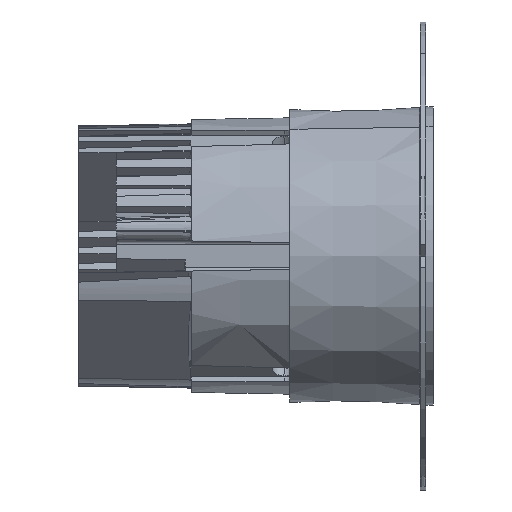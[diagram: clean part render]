
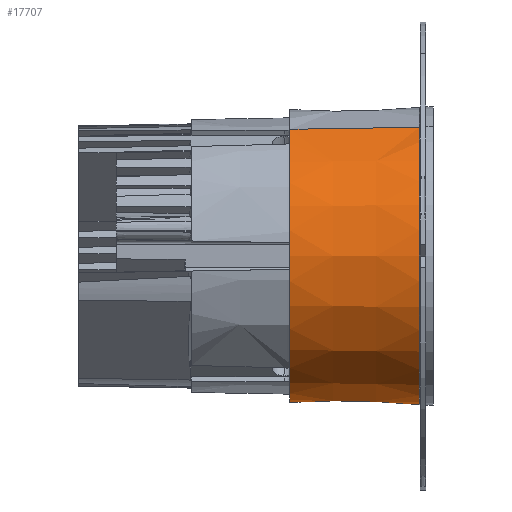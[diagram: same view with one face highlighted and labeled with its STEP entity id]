
A CAD part, left-side view. The second image highlights one B-rep face of the part: STEP entity #17707.
In plain terms, the highlighted conical face has half-angle 1 degrees and reference radius 38.776 mm.
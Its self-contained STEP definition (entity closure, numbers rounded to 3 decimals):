
#1489 = ORIENTED_EDGE ( 'NONE', *, *, #15432, .T. ) ;
#1741 = ORIENTED_EDGE ( 'NONE', *, *, #14887, .F. ) ;
#2378 = DIRECTION ( 'NONE',  ( 0., -1., 0.017 ) ) ;
#3381 = EDGE_CURVE ( 'NONE', #30016, #27765, #39309, .T. ) ;
#3754 = CARTESIAN_POINT ( 'NONE',  ( 0., 38., -38.776 ) ) ;
#5378 = CARTESIAN_POINT ( 'NONE',  ( 0., 3.697, -39.374 ) ) ;
#7106 = VECTOR ( 'NONE', #2378, 1000. ) ;
#7344 = CARTESIAN_POINT ( 'NONE',  ( 0., 3.697, 39.374 ) ) ;
#7838 = DIRECTION ( 'NONE',  ( 0., 1., 0. ) ) ;
#9656 = VECTOR ( 'NONE', #40045, 1000. ) ;
#10482 = CARTESIAN_POINT ( 'NONE',  ( 0., 38., 0. ) ) ;
#11504 = CARTESIAN_POINT ( 'NONE',  ( 0., 38., 38.776 ) ) ;
#11528 = AXIS2_PLACEMENT_3D ( 'NONE', #15223, #7838, #23029 ) ;
#11624 = LINE ( 'NONE', #27024, #9656 ) ;
#12596 = VERTEX_POINT ( 'NONE', #5378 ) ;
#14887 = EDGE_CURVE ( 'NONE', #15254, #30016, #28989, .T. ) ;
#15223 = CARTESIAN_POINT ( 'NONE',  ( 0., 38., 0. ) ) ;
#15254 = VERTEX_POINT ( 'NONE', #3754 ) ;
#15432 = EDGE_CURVE ( 'NONE', #15254, #12596, #11624, .T. ) ;
#16210 = DIRECTION ( 'NONE',  ( 0., 1., 0. ) ) ;
#17707 = ADVANCED_FACE ( 'NONE', ( #38286 ), #32514, .T. ) ;
#23029 = DIRECTION ( 'NONE',  ( 0., 0., 1. ) ) ;
#25477 = AXIS2_PLACEMENT_3D ( 'NONE', #37335, #16210, #28549 ) ;
#27024 = CARTESIAN_POINT ( 'NONE',  ( 0., 38., -38.776 ) ) ;
#27765 = VERTEX_POINT ( 'NONE', #7344 ) ;
#28549 = DIRECTION ( 'NONE',  ( 0., 0., -1. ) ) ;
#28732 = EDGE_LOOP ( 'NONE', ( #36948, #1741, #1489, #38900 ) ) ;
#28989 = CIRCLE ( 'NONE', #11528, 38.776 ) ;
#29901 = AXIS2_PLACEMENT_3D ( 'NONE', #10482, #32164, #32366 ) ;
#30016 = VERTEX_POINT ( 'NONE', #34083 ) ;
#32164 = DIRECTION ( 'NONE',  ( 0., -1., 0. ) ) ;
#32366 = DIRECTION ( 'NONE',  ( 0., 0., -1. ) ) ;
#32514 = CONICAL_SURFACE ( 'NONE', #29901, 38.776, 0.017 ) ;
#34083 = CARTESIAN_POINT ( 'NONE',  ( 0., 38., 38.776 ) ) ;
#35955 = EDGE_CURVE ( 'NONE', #12596, #27765, #39766, .T. ) ;
#36948 = ORIENTED_EDGE ( 'NONE', *, *, #3381, .F. ) ;
#37335 = CARTESIAN_POINT ( 'NONE',  ( 0., 3.697, 0. ) ) ;
#38286 = FACE_OUTER_BOUND ( 'NONE', #28732, .T. ) ;
#38900 = ORIENTED_EDGE ( 'NONE', *, *, #35955, .T. ) ;
#39309 = LINE ( 'NONE', #11504, #7106 ) ;
#39766 = CIRCLE ( 'NONE', #25477, 39.374 ) ;
#40045 = DIRECTION ( 'NONE',  ( 0., -1., -0.017 ) ) ;
